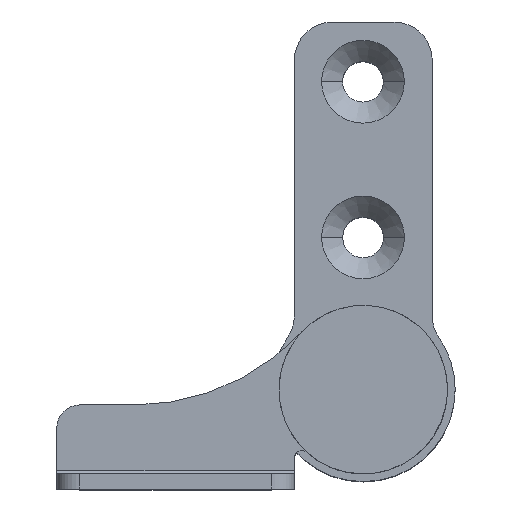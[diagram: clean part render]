
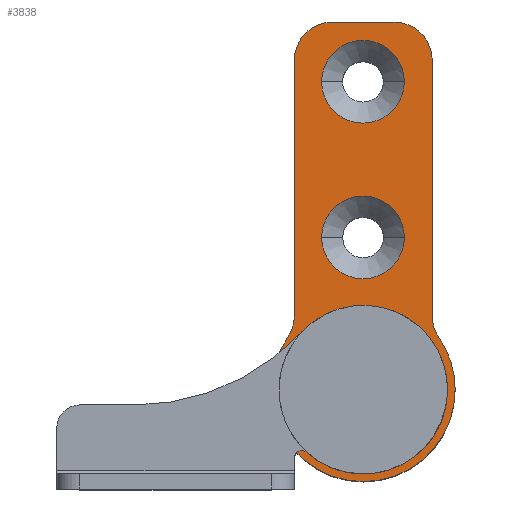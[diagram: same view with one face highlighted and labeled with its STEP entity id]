
A CAD part, top view. The second image highlights one B-rep face of the part: STEP entity #3838.
In plain terms, the highlighted planar face has unit normal (0, 0, 1).
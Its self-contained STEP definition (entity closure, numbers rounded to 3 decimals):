
#35 = CIRCLE ( 'NONE', #1882, 5.4 ) ;
#41 = ORIENTED_EDGE ( 'NONE', *, *, #5607, .F. ) ;
#43 = DIRECTION ( 'NONE',  ( 0., 0., 1. ) ) ;
#105 = CARTESIAN_POINT ( 'NONE',  ( -9., 7.937, 3. ) ) ;
#180 = DIRECTION ( 'NONE',  ( 0., 0., 1. ) ) ;
#425 = CIRCLE ( 'NONE', #6967, 5. ) ;
#431 = AXIS2_PLACEMENT_3D ( 'NONE', #3368, #7504, #1075 ) ;
#505 = DIRECTION ( 'NONE',  ( 0., 0., 1. ) ) ;
#669 = AXIS2_PLACEMENT_3D ( 'NONE', #1286, #1355, #3112 ) ;
#674 = CARTESIAN_POINT ( 'NONE',  ( -14., 9.644, 3. ) ) ;
#710 = ORIENTED_EDGE ( 'NONE', *, *, #4365, .F. ) ;
#798 = EDGE_CURVE ( 'NONE', #5723, #3816, #425, .T. ) ;
#816 = DIRECTION ( 'NONE',  ( 0., 0., 1. ) ) ;
#882 = DIRECTION ( 'NONE',  ( 0., 1., 0. ) ) ;
#1023 = EDGE_CURVE ( 'NONE', #1424, #6482, #1784, .T. ) ;
#1045 = DIRECTION ( 'NONE',  ( 0., 0., 1. ) ) ;
#1075 = DIRECTION ( 'NONE',  ( 1., 0., 0. ) ) ;
#1148 = LINE ( 'NONE', #7586, #2530 ) ;
#1160 = VERTEX_POINT ( 'NONE', #4865 ) ;
#1185 = EDGE_CURVE ( 'NONE', #6221, #7355, #7185, .T. ) ;
#1220 = ORIENTED_EDGE ( 'NONE', *, *, #2984, .T. ) ;
#1276 = CARTESIAN_POINT ( 'NONE',  ( -0.031, 19.883, 3. ) ) ;
#1286 = CARTESIAN_POINT ( 'NONE',  ( -0.038, 40.201, 3. ) ) ;
#1355 = DIRECTION ( 'NONE',  ( 0., 0., 1. ) ) ;
#1424 = VERTEX_POINT ( 'NONE', #6521 ) ;
#1433 = CARTESIAN_POINT ( 'NONE',  ( 4., 43., 3. ) ) ;
#1482 = DIRECTION ( 'NONE',  ( 1., 0., 0. ) ) ;
#1625 = FACE_BOUND ( 'NONE', #3851, .T. ) ;
#1731 = CARTESIAN_POINT ( 'NONE',  ( -4., 43., 3. ) ) ;
#1784 = CIRCLE ( 'NONE', #6700, 5. ) ;
#1788 = VECTOR ( 'NONE', #4239, 1000. ) ;
#1833 = EDGE_CURVE ( 'NONE', #3813, #6221, #6468, .T. ) ;
#1874 = EDGE_CURVE ( 'NONE', #1160, #6478, #3643, .T. ) ;
#1882 = AXIS2_PLACEMENT_3D ( 'NONE', #3255, #5562, #4888 ) ;
#1942 = DIRECTION ( 'NONE',  ( 1., 0., 0. ) ) ;
#2015 = ORIENTED_EDGE ( 'NONE', *, *, #7343, .F. ) ;
#2222 = AXIS2_PLACEMENT_3D ( 'NONE', #3452, #4656, #2912 ) ;
#2268 = EDGE_LOOP ( 'NONE', ( #3055, #710 ) ) ;
#2278 = DIRECTION ( 'NONE',  ( -1., 0., 0. ) ) ;
#2429 = CARTESIAN_POINT ( 'NONE',  ( 12., 0., 3. ) ) ;
#2516 = CARTESIAN_POINT ( 'NONE',  ( -5.431, 19.883, 3. ) ) ;
#2530 = VECTOR ( 'NONE', #2278, 1000. ) ;
#2646 = VECTOR ( 'NONE', #882, 1000. ) ;
#2679 = CARTESIAN_POINT ( 'NONE',  ( 0., 0., 3. ) ) ;
#2772 = CIRCLE ( 'NONE', #6456, 5. ) ;
#2857 = CARTESIAN_POINT ( 'NONE',  ( -4., 48., 3. ) ) ;
#2902 = DIRECTION ( 'NONE',  ( -1., 0., 0. ) ) ;
#2912 = DIRECTION ( 'NONE',  ( 1., 0., 0. ) ) ;
#2942 = ORIENTED_EDGE ( 'NONE', *, *, #1023, .T. ) ;
#2971 = DIRECTION ( 'NONE',  ( 1., 0., 0. ) ) ;
#2984 = EDGE_CURVE ( 'NONE', #3669, #5723, #1148, .T. ) ;
#3002 = EDGE_CURVE ( 'NONE', #4378, #3881, #3283, .T. ) ;
#3041 = ORIENTED_EDGE ( 'NONE', *, *, #1833, .T. ) ;
#3055 = ORIENTED_EDGE ( 'NONE', *, *, #3002, .F. ) ;
#3057 = EDGE_LOOP ( 'NONE', ( #6099, #2942, #3179, #5332, #4962, #3041, #5254, #5502, #1220, #4183 ) ) ;
#3060 = DIRECTION ( 'NONE',  ( 0., 0., -1. ) ) ;
#3112 = DIRECTION ( 'NONE',  ( 1., 0., 0. ) ) ;
#3179 = ORIENTED_EDGE ( 'NONE', *, *, #4568, .T. ) ;
#3242 = CIRCLE ( 'NONE', #5297, 5.4 ) ;
#3255 = CARTESIAN_POINT ( 'NONE',  ( -0.038, 40.201, 3. ) ) ;
#3283 = CIRCLE ( 'NONE', #7562, 5.01 ) ;
#3368 = CARTESIAN_POINT ( 'NONE',  ( -0.031, 19.883, 3. ) ) ;
#3377 = FACE_BOUND ( 'NONE', #4302, .T. ) ;
#3386 = CARTESIAN_POINT ( 'NONE',  ( 14., 9.644, 3. ) ) ;
#3451 = CARTESIAN_POINT ( 'NONE',  ( -9., 43., 3. ) ) ;
#3452 = CARTESIAN_POINT ( 'NONE',  ( 0., 0., 3. ) ) ;
#3473 = CIRCLE ( 'NONE', #5727, 12. ) ;
#3474 = DIRECTION ( 'NONE',  ( 1., 0., 0. ) ) ;
#3485 = FACE_OUTER_BOUND ( 'NONE', #3057, .T. ) ;
#3539 = EDGE_CURVE ( 'NONE', #3816, #1424, #5355, .T. ) ;
#3570 = VERTEX_POINT ( 'NONE', #2429 ) ;
#3597 = CIRCLE ( 'NONE', #7508, 5.01 ) ;
#3643 = CIRCLE ( 'NONE', #669, 5.4 ) ;
#3669 = VERTEX_POINT ( 'NONE', #4276 ) ;
#3679 = DIRECTION ( 'NONE',  ( 0., 0., 1. ) ) ;
#3706 = EDGE_CURVE ( 'NONE', #7355, #3669, #2772, .T. ) ;
#3737 = AXIS2_PLACEMENT_3D ( 'NONE', #7442, #1045, #7511 ) ;
#3771 = AXIS2_PLACEMENT_3D ( 'NONE', #3386, #6528, #6567 ) ;
#3794 = CARTESIAN_POINT ( 'NONE',  ( 9., 7.937, 3. ) ) ;
#3813 = VERTEX_POINT ( 'NONE', #6319 ) ;
#3816 = VERTEX_POINT ( 'NONE', #3451 ) ;
#3838 = ADVANCED_FACE ( 'NONE', ( #3485, #1625, #3377, #6243 ), #3963, .T. ) ;
#3851 = EDGE_LOOP ( 'NONE', ( #2015, #41 ) ) ;
#3860 = DIRECTION ( 'NONE',  ( 0., 0., 1. ) ) ;
#3881 = VERTEX_POINT ( 'NONE', #5795 ) ;
#3963 = PLANE ( 'NONE',  #3737 ) ;
#4002 = ORIENTED_EDGE ( 'NONE', *, *, #7559, .F. ) ;
#4183 = ORIENTED_EDGE ( 'NONE', *, *, #798, .T. ) ;
#4239 = DIRECTION ( 'NONE',  ( 0., -1., 0. ) ) ;
#4271 = CARTESIAN_POINT ( 'NONE',  ( 9., 43., 3. ) ) ;
#4276 = CARTESIAN_POINT ( 'NONE',  ( 4., 48., 3. ) ) ;
#4302 = EDGE_LOOP ( 'NONE', ( #4002, #6208 ) ) ;
#4308 = CARTESIAN_POINT ( 'NONE',  ( 5.362, 40.201, 3. ) ) ;
#4365 = EDGE_CURVE ( 'NONE', #3881, #4378, #3597, .T. ) ;
#4378 = VERTEX_POINT ( 'NONE', #4628 ) ;
#4386 = CARTESIAN_POINT ( 'NONE',  ( -9.882, 6.807, 3. ) ) ;
#4515 = CARTESIAN_POINT ( 'NONE',  ( 0., 0., 3. ) ) ;
#4568 = EDGE_CURVE ( 'NONE', #6482, #6214, #7390, .T. ) ;
#4585 = CARTESIAN_POINT ( 'NONE',  ( -12., 0., 3. ) ) ;
#4628 = CARTESIAN_POINT ( 'NONE',  ( -5.01, 0., 3. ) ) ;
#4656 = DIRECTION ( 'NONE',  ( 0., 0., 1. ) ) ;
#4865 = CARTESIAN_POINT ( 'NONE',  ( -5.438, 40.201, 3. ) ) ;
#4888 = DIRECTION ( 'NONE',  ( 1., 0., 0. ) ) ;
#4962 = ORIENTED_EDGE ( 'NONE', *, *, #6480, .T. ) ;
#5032 = AXIS2_PLACEMENT_3D ( 'NONE', #6765, #180, #1482 ) ;
#5225 = DIRECTION ( 'NONE',  ( 0., 0., 1. ) ) ;
#5240 = CARTESIAN_POINT ( 'NONE',  ( 9., 9.644, 3. ) ) ;
#5254 = ORIENTED_EDGE ( 'NONE', *, *, #1185, .T. ) ;
#5297 = AXIS2_PLACEMENT_3D ( 'NONE', #1276, #3679, #1942 ) ;
#5332 = ORIENTED_EDGE ( 'NONE', *, *, #6721, .T. ) ;
#5355 = LINE ( 'NONE', #105, #1788 ) ;
#5451 = CARTESIAN_POINT ( 'NONE',  ( 5.369, 19.883, 3. ) ) ;
#5480 = VERTEX_POINT ( 'NONE', #5451 ) ;
#5502 = ORIENTED_EDGE ( 'NONE', *, *, #3706, .T. ) ;
#5562 = DIRECTION ( 'NONE',  ( 0., 0., 1. ) ) ;
#5607 = EDGE_CURVE ( 'NONE', #7259, #5480, #6345, .T. ) ;
#5723 = VERTEX_POINT ( 'NONE', #2857 ) ;
#5727 = AXIS2_PLACEMENT_3D ( 'NONE', #2679, #816, #7252 ) ;
#5795 = CARTESIAN_POINT ( 'NONE',  ( 5.01, 0., 3. ) ) ;
#5908 = CARTESIAN_POINT ( 'NONE',  ( 0., 0., 3. ) ) ;
#6099 = ORIENTED_EDGE ( 'NONE', *, *, #3539, .T. ) ;
#6208 = ORIENTED_EDGE ( 'NONE', *, *, #1874, .F. ) ;
#6214 = VERTEX_POINT ( 'NONE', #4585 ) ;
#6221 = VERTEX_POINT ( 'NONE', #5240 ) ;
#6243 = FACE_BOUND ( 'NONE', #2268, .T. ) ;
#6319 = CARTESIAN_POINT ( 'NONE',  ( 9.882, 6.807, 3. ) ) ;
#6345 = CIRCLE ( 'NONE', #431, 5.4 ) ;
#6456 = AXIS2_PLACEMENT_3D ( 'NONE', #1433, #3860, #6753 ) ;
#6468 = CIRCLE ( 'NONE', #3771, 5. ) ;
#6478 = VERTEX_POINT ( 'NONE', #4308 ) ;
#6480 = EDGE_CURVE ( 'NONE', #3570, #3813, #3473, .T. ) ;
#6482 = VERTEX_POINT ( 'NONE', #4386 ) ;
#6521 = CARTESIAN_POINT ( 'NONE',  ( -9., 9.644, 3. ) ) ;
#6528 = DIRECTION ( 'NONE',  ( 0., 0., -1. ) ) ;
#6567 = DIRECTION ( 'NONE',  ( 1., 0., 0. ) ) ;
#6648 = CIRCLE ( 'NONE', #2222, 12. ) ;
#6700 = AXIS2_PLACEMENT_3D ( 'NONE', #674, #3060, #2971 ) ;
#6721 = EDGE_CURVE ( 'NONE', #6214, #3570, #6648, .T. ) ;
#6753 = DIRECTION ( 'NONE',  ( -1., 0., 0. ) ) ;
#6765 = CARTESIAN_POINT ( 'NONE',  ( 0., 0., 3. ) ) ;
#6882 = DIRECTION ( 'NONE',  ( 1., 0., 0. ) ) ;
#6967 = AXIS2_PLACEMENT_3D ( 'NONE', #1731, #5225, #2902 ) ;
#7185 = LINE ( 'NONE', #3794, #2646 ) ;
#7252 = DIRECTION ( 'NONE',  ( 1., 0., 0. ) ) ;
#7259 = VERTEX_POINT ( 'NONE', #2516 ) ;
#7343 = EDGE_CURVE ( 'NONE', #5480, #7259, #3242, .T. ) ;
#7355 = VERTEX_POINT ( 'NONE', #4271 ) ;
#7390 = CIRCLE ( 'NONE', #5032, 12. ) ;
#7442 = CARTESIAN_POINT ( 'NONE',  ( 0., 0., 3. ) ) ;
#7504 = DIRECTION ( 'NONE',  ( 0., 0., 1. ) ) ;
#7508 = AXIS2_PLACEMENT_3D ( 'NONE', #4515, #505, #6882 ) ;
#7511 = DIRECTION ( 'NONE',  ( 1., 0., 0. ) ) ;
#7559 = EDGE_CURVE ( 'NONE', #6478, #1160, #35, .T. ) ;
#7562 = AXIS2_PLACEMENT_3D ( 'NONE', #5908, #43, #3474 ) ;
#7586 = CARTESIAN_POINT ( 'NONE',  ( -4., 48., 3. ) ) ;
